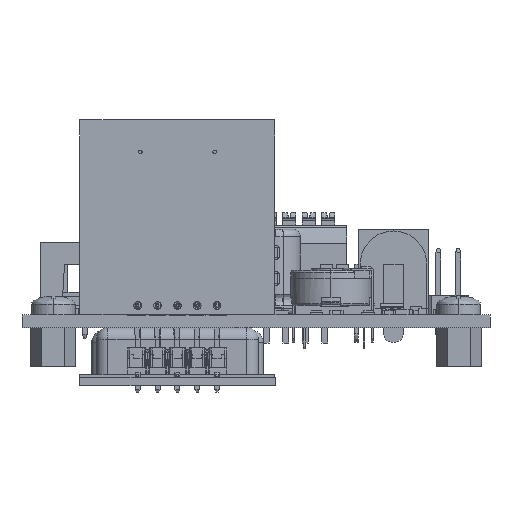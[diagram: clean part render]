
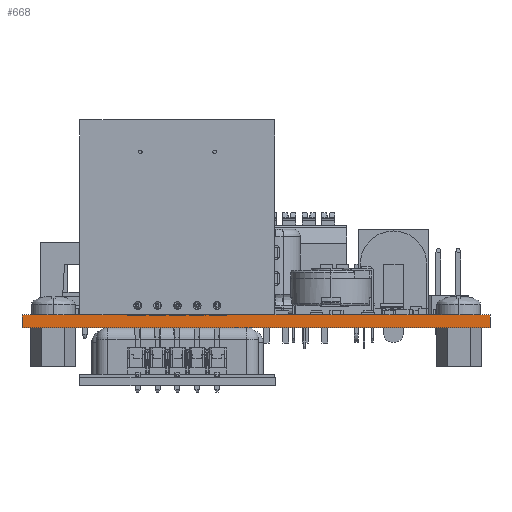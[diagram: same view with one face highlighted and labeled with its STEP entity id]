
A CAD part, left-side view. The second image highlights one B-rep face of the part: STEP entity #668.
In plain terms, the highlighted planar face has unit normal (-1, 0, 0).
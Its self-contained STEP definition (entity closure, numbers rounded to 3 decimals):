
#499 = PLANE('',#500);
#500 = AXIS2_PLACEMENT_3D('',#501,#502,#503);
#501 = CARTESIAN_POINT('',(0.,0.,0.));
#502 = DIRECTION('',(0.,1.,0.));
#503 = DIRECTION('',(1.,0.,0.));
#527 = PLANE('',#528);
#528 = AXIS2_PLACEMENT_3D('',#529,#530,#531);
#529 = CARTESIAN_POINT('',(73.,0.,1.615));
#530 = DIRECTION('',(0.,0.,-1.));
#531 = DIRECTION('',(-1.,0.,0.));
#555 = PLANE('',#556);
#556 = AXIS2_PLACEMENT_3D('',#557,#558,#559);
#557 = CARTESIAN_POINT('',(73.,60.,0.));
#558 = DIRECTION('',(0.,-1.,0.));
#559 = DIRECTION('',(-1.,0.,0.));
#581 = PLANE('',#582);
#582 = AXIS2_PLACEMENT_3D('',#583,#584,#585);
#583 = CARTESIAN_POINT('',(73.,0.,0.));
#584 = DIRECTION('',(0.,0.,-1.));
#585 = DIRECTION('',(-1.,0.,0.));
#598 = VERTEX_POINT('',#599);
#599 = CARTESIAN_POINT('',(0.,60.,1.615));
#620 = EDGE_CURVE('',#621,#598,#623,.T.);
#621 = VERTEX_POINT('',#622);
#622 = CARTESIAN_POINT('',(0.,60.,0.));
#623 = SURFACE_CURVE('',#624,(#628,#635),.PCURVE_S1.);
#624 = LINE('',#625,#626);
#625 = CARTESIAN_POINT('',(0.,60.,0.));
#626 = VECTOR('',#627,1.);
#627 = DIRECTION('',(0.,0.,1.));
#628 = PCURVE('',#555,#629);
#629 = DEFINITIONAL_REPRESENTATION('',(#630),#634);
#630 = LINE('',#631,#632);
#631 = CARTESIAN_POINT('',(73.,0.));
#632 = VECTOR('',#633,1.);
#633 = DIRECTION('',(0.,-1.));
#634 = ( GEOMETRIC_REPRESENTATION_CONTEXT(2) 
PARAMETRIC_REPRESENTATION_CONTEXT() REPRESENTATION_CONTEXT('2D SPACE',''
  ) );
#635 = PCURVE('',#636,#641);
#636 = PLANE('',#637);
#637 = AXIS2_PLACEMENT_3D('',#638,#639,#640);
#638 = CARTESIAN_POINT('',(0.,60.,0.));
#639 = DIRECTION('',(1.,0.,0.));
#640 = DIRECTION('',(0.,-1.,0.));
#641 = DEFINITIONAL_REPRESENTATION('',(#642),#646);
#642 = LINE('',#643,#644);
#643 = CARTESIAN_POINT('',(0.,0.));
#644 = VECTOR('',#645,1.);
#645 = DIRECTION('',(0.,-1.));
#646 = ( GEOMETRIC_REPRESENTATION_CONTEXT(2) 
PARAMETRIC_REPRESENTATION_CONTEXT() REPRESENTATION_CONTEXT('2D SPACE',''
  ) );
#668 = ADVANCED_FACE('',(#669),#636,.F.);
#669 = FACE_BOUND('',#670,.F.);
#670 = EDGE_LOOP('',(#671,#672,#695,#718));
#671 = ORIENTED_EDGE('',*,*,#620,.T.);
#672 = ORIENTED_EDGE('',*,*,#673,.T.);
#673 = EDGE_CURVE('',#598,#674,#676,.T.);
#674 = VERTEX_POINT('',#675);
#675 = CARTESIAN_POINT('',(0.,0.,1.615));
#676 = SURFACE_CURVE('',#677,(#681,#688),.PCURVE_S1.);
#677 = LINE('',#678,#679);
#678 = CARTESIAN_POINT('',(0.,60.,1.615));
#679 = VECTOR('',#680,1.);
#680 = DIRECTION('',(0.,-1.,0.));
#681 = PCURVE('',#636,#682);
#682 = DEFINITIONAL_REPRESENTATION('',(#683),#687);
#683 = LINE('',#684,#685);
#684 = CARTESIAN_POINT('',(0.,-1.615));
#685 = VECTOR('',#686,1.);
#686 = DIRECTION('',(1.,0.));
#687 = ( GEOMETRIC_REPRESENTATION_CONTEXT(2) 
PARAMETRIC_REPRESENTATION_CONTEXT() REPRESENTATION_CONTEXT('2D SPACE',''
  ) );
#688 = PCURVE('',#527,#689);
#689 = DEFINITIONAL_REPRESENTATION('',(#690),#694);
#690 = LINE('',#691,#692);
#691 = CARTESIAN_POINT('',(73.,60.));
#692 = VECTOR('',#693,1.);
#693 = DIRECTION('',(0.,-1.));
#694 = ( GEOMETRIC_REPRESENTATION_CONTEXT(2) 
PARAMETRIC_REPRESENTATION_CONTEXT() REPRESENTATION_CONTEXT('2D SPACE',''
  ) );
#695 = ORIENTED_EDGE('',*,*,#696,.F.);
#696 = EDGE_CURVE('',#697,#674,#699,.T.);
#697 = VERTEX_POINT('',#698);
#698 = CARTESIAN_POINT('',(0.,0.,0.));
#699 = SURFACE_CURVE('',#700,(#704,#711),.PCURVE_S1.);
#700 = LINE('',#701,#702);
#701 = CARTESIAN_POINT('',(0.,0.,0.));
#702 = VECTOR('',#703,1.);
#703 = DIRECTION('',(0.,0.,1.));
#704 = PCURVE('',#636,#705);
#705 = DEFINITIONAL_REPRESENTATION('',(#706),#710);
#706 = LINE('',#707,#708);
#707 = CARTESIAN_POINT('',(60.,0.));
#708 = VECTOR('',#709,1.);
#709 = DIRECTION('',(0.,-1.));
#710 = ( GEOMETRIC_REPRESENTATION_CONTEXT(2) 
PARAMETRIC_REPRESENTATION_CONTEXT() REPRESENTATION_CONTEXT('2D SPACE',''
  ) );
#711 = PCURVE('',#499,#712);
#712 = DEFINITIONAL_REPRESENTATION('',(#713),#717);
#713 = LINE('',#714,#715);
#714 = CARTESIAN_POINT('',(0.,0.));
#715 = VECTOR('',#716,1.);
#716 = DIRECTION('',(0.,-1.));
#717 = ( GEOMETRIC_REPRESENTATION_CONTEXT(2) 
PARAMETRIC_REPRESENTATION_CONTEXT() REPRESENTATION_CONTEXT('2D SPACE',''
  ) );
#718 = ORIENTED_EDGE('',*,*,#719,.F.);
#719 = EDGE_CURVE('',#621,#697,#720,.T.);
#720 = SURFACE_CURVE('',#721,(#725,#732),.PCURVE_S1.);
#721 = LINE('',#722,#723);
#722 = CARTESIAN_POINT('',(0.,60.,0.));
#723 = VECTOR('',#724,1.);
#724 = DIRECTION('',(0.,-1.,0.));
#725 = PCURVE('',#636,#726);
#726 = DEFINITIONAL_REPRESENTATION('',(#727),#731);
#727 = LINE('',#728,#729);
#728 = CARTESIAN_POINT('',(0.,0.));
#729 = VECTOR('',#730,1.);
#730 = DIRECTION('',(1.,0.));
#731 = ( GEOMETRIC_REPRESENTATION_CONTEXT(2) 
PARAMETRIC_REPRESENTATION_CONTEXT() REPRESENTATION_CONTEXT('2D SPACE',''
  ) );
#732 = PCURVE('',#581,#733);
#733 = DEFINITIONAL_REPRESENTATION('',(#734),#738);
#734 = LINE('',#735,#736);
#735 = CARTESIAN_POINT('',(73.,60.));
#736 = VECTOR('',#737,1.);
#737 = DIRECTION('',(0.,-1.));
#738 = ( GEOMETRIC_REPRESENTATION_CONTEXT(2) 
PARAMETRIC_REPRESENTATION_CONTEXT() REPRESENTATION_CONTEXT('2D SPACE',''
  ) );
